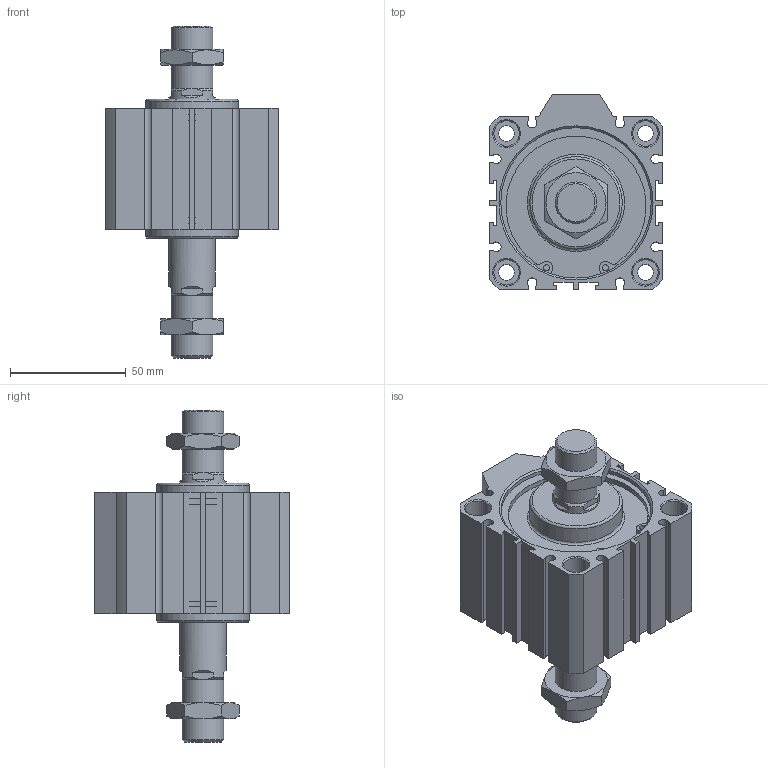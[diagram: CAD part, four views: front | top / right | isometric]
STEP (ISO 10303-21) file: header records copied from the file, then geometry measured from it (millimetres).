
FILE_DESCRIPTION((''),'2;1');
FILE_NAME('I:\3D電子目錄\氣缸\JDD\JDD-B\JDD63-B\JDD63x20-B.stp','2007-02-13T15:44:30',('662F206'),(''),'Autodesk Inventor 10','Autodesk Inventor 10','');
FILE_SCHEMA(('AUTOMOTIVE_DESIGN { 1 0 10303 214 1 1 1 1 }'));
Length unit declared in the file: millimetre
Products named in the file (3): JDD63-B; R 形環 65
Assembly tree (3 placements, depth 2):
  JDD63-B
    JDD63-B
    R 形環 65  x2
Bounding box: 75 x 84.5 x 143.5 mm (x, y, z)
Volume: 294612.6 mm3; surface area: 56946.3 mm2
Topology: 3 solids, 3 shells, 230 faces, 558 edges, 360 vertices
Faces by surface type: plane 132, cylinder 56, cone 38, bspline 2, torus 2
Full cylindrical faces by diameter (mm): 2.7 x4, 3 x2, 6.8 x4, 11 x8, 18 x4, 20 x2, 40 x2, 65 x4, 68 x2
Entity records: 6147 total; most frequent: CARTESIAN_POINT 1216, DIRECTION 1012, ORIENTED_EDGE 936, EDGE_CURVE 468, AXIS2_PLACEMENT_3D 374, VERTEX_POINT 332, EDGE_LOOP 308, VECTOR 264
